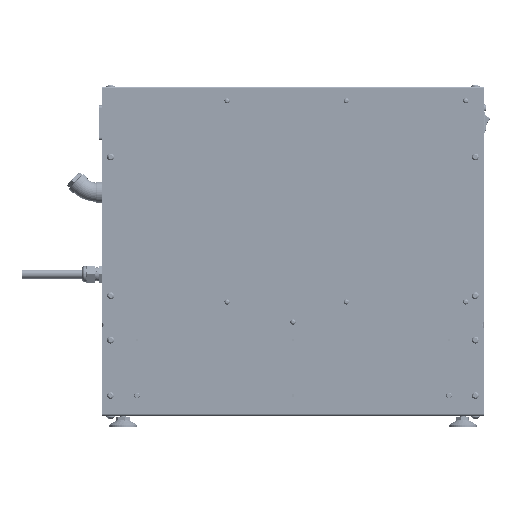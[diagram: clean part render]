
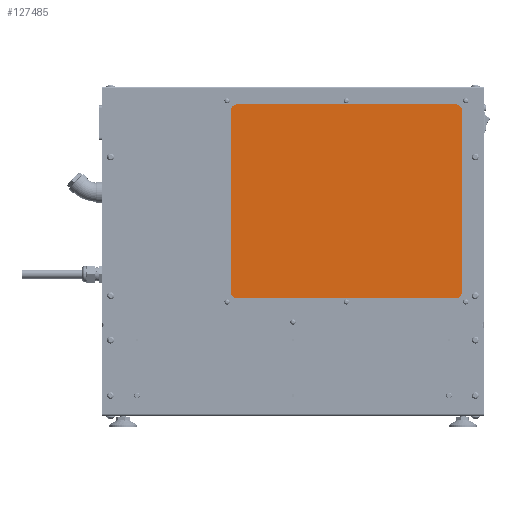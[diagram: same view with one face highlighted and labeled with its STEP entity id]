
A CAD part, top view. The second image highlights one B-rep face of the part: STEP entity #127485.
In plain terms, the highlighted planar face has unit normal (0, 0, 1).
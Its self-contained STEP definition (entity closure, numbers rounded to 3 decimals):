
#2292 = CARTESIAN_POINT ( 'NONE',  ( -35.71, 387.157, 154.544 ) ) ;
#5087 = CARTESIAN_POINT ( 'NONE',  ( -15.71, 407.157, 154.544 ) ) ;
#6573 = EDGE_CURVE ( 'NONE', #105616, #125133, #56300, .T. ) ;
#6986 = VECTOR ( 'NONE', #18080, 1000. ) ;
#8058 = DIRECTION ( 'NONE',  ( -0.707, 0.707, 0. ) ) ;
#9479 = CARTESIAN_POINT ( 'NONE',  ( 141.79, 256.157, 154.544 ) ) ;
#10951 = CARTESIAN_POINT ( 'NONE',  ( 319.29, 387.157, 154.544 ) ) ;
#13530 = VECTOR ( 'NONE', #52804, 1000. ) ;
#14772 = EDGE_CURVE ( 'NONE', #125133, #80828, #164002, .T. ) ;
#18080 = DIRECTION ( 'NONE',  ( 1., 0., 0. ) ) ;
#18127 = CARTESIAN_POINT ( 'NONE',  ( 319.29, 125.157, 154.544 ) ) ;
#21132 = LINE ( 'NONE', #74453, #76371 ) ;
#25440 = VERTEX_POINT ( 'NONE', #48425 ) ;
#26800 = EDGE_CURVE ( 'NONE', #80828, #110414, #163237, .T. ) ;
#32331 = EDGE_CURVE ( 'NONE', #25440, #105616, #147109, .T. ) ;
#32727 = AXIS2_PLACEMENT_3D ( 'NONE', #9479, #34808, #102107 ) ;
#33801 = VECTOR ( 'NONE', #43499, 1000. ) ;
#34808 = DIRECTION ( 'NONE',  ( 0., 0., -1. ) ) ;
#36104 = VERTEX_POINT ( 'NONE', #155019 ) ;
#36950 = ORIENTED_EDGE ( 'NONE', *, *, #51982, .T. ) ;
#37121 = LINE ( 'NONE', #10951, #13530 ) ;
#40170 = CARTESIAN_POINT ( 'NONE',  ( 299.29, 105.157, 154.544 ) ) ;
#43499 = DIRECTION ( 'NONE',  ( 0.707, 0.707, 0. ) ) ;
#45327 = ORIENTED_EDGE ( 'NONE', *, *, #14772, .T. ) ;
#46143 = ORIENTED_EDGE ( 'NONE', *, *, #32331, .T. ) ;
#48425 = CARTESIAN_POINT ( 'NONE',  ( -35.71, 387.157, 154.544 ) ) ;
#51107 = ORIENTED_EDGE ( 'NONE', *, *, #79733, .T. ) ;
#51373 = VECTOR ( 'NONE', #67643, 1000. ) ;
#51982 = EDGE_CURVE ( 'NONE', #36104, #79234, #21132, .T. ) ;
#52804 = DIRECTION ( 'NONE',  ( 0., 1., 0. ) ) ;
#56300 = LINE ( 'NONE', #84245, #120866 ) ;
#62073 = CARTESIAN_POINT ( 'NONE',  ( 299.29, 407.157, 154.544 ) ) ;
#67643 = DIRECTION ( 'NONE',  ( 0., -1., 0. ) ) ;
#74453 = CARTESIAN_POINT ( 'NONE',  ( 299.29, 407.157, 154.544 ) ) ;
#76371 = VECTOR ( 'NONE', #8058, 1000. ) ;
#79234 = VERTEX_POINT ( 'NONE', #62073 ) ;
#79256 = VECTOR ( 'NONE', #169723, 1000. ) ;
#79733 = EDGE_CURVE ( 'NONE', #111383, #25440, #112298, .T. ) ;
#80828 = VERTEX_POINT ( 'NONE', #40170 ) ;
#84245 = CARTESIAN_POINT ( 'NONE',  ( -35.71, 125.157, 154.544 ) ) ;
#88494 = LINE ( 'NONE', #116419, #79256 ) ;
#89169 = ORIENTED_EDGE ( 'NONE', *, *, #26800, .T. ) ;
#91945 = CARTESIAN_POINT ( 'NONE',  ( -35.71, 125.157, 154.544 ) ) ;
#96630 = DIRECTION ( 'NONE',  ( -0.707, -0.707, 0. ) ) ;
#98988 = ORIENTED_EDGE ( 'NONE', *, *, #6573, .T. ) ;
#101238 = FACE_OUTER_BOUND ( 'NONE', #126084, .T. ) ;
#102107 = DIRECTION ( 'NONE',  ( -1., 0., 0. ) ) ;
#102975 = PLANE ( 'NONE',  #32727 ) ;
#105221 = CARTESIAN_POINT ( 'NONE',  ( -35.71, 387.157, 154.544 ) ) ;
#105616 = VERTEX_POINT ( 'NONE', #91945 ) ;
#109561 = DIRECTION ( 'NONE',  ( 0.707, -0.707, 0. ) ) ;
#110414 = VERTEX_POINT ( 'NONE', #18127 ) ;
#111383 = VERTEX_POINT ( 'NONE', #5087 ) ;
#112298 = LINE ( 'NONE', #2292, #164857 ) ;
#113404 = ORIENTED_EDGE ( 'NONE', *, *, #171197, .T. ) ;
#116419 = CARTESIAN_POINT ( 'NONE',  ( -15.71, 407.157, 154.544 ) ) ;
#120866 = VECTOR ( 'NONE', #109561, 1000. ) ;
#121675 = EDGE_CURVE ( 'NONE', #79234, #111383, #88494, .T. ) ;
#125133 = VERTEX_POINT ( 'NONE', #154514 ) ;
#126084 = EDGE_LOOP ( 'NONE', ( #138119, #51107, #46143, #98988, #45327, #89169, #113404, #36950 ) ) ;
#127485 = ADVANCED_FACE ( 'NONE', ( #101238 ), #102975, .F. ) ;
#134446 = CARTESIAN_POINT ( 'NONE',  ( 299.29, 105.157, 154.544 ) ) ;
#138119 = ORIENTED_EDGE ( 'NONE', *, *, #121675, .T. ) ;
#147109 = LINE ( 'NONE', #105221, #51373 ) ;
#150886 = CARTESIAN_POINT ( 'NONE',  ( -15.71, 105.157, 154.544 ) ) ;
#154514 = CARTESIAN_POINT ( 'NONE',  ( -15.71, 105.157, 154.544 ) ) ;
#155019 = CARTESIAN_POINT ( 'NONE',  ( 319.29, 387.157, 154.544 ) ) ;
#163237 = LINE ( 'NONE', #134446, #33801 ) ;
#164002 = LINE ( 'NONE', #150886, #6986 ) ;
#164857 = VECTOR ( 'NONE', #96630, 1000. ) ;
#169723 = DIRECTION ( 'NONE',  ( -1., 0., 0. ) ) ;
#171197 = EDGE_CURVE ( 'NONE', #110414, #36104, #37121, .T. ) ;
